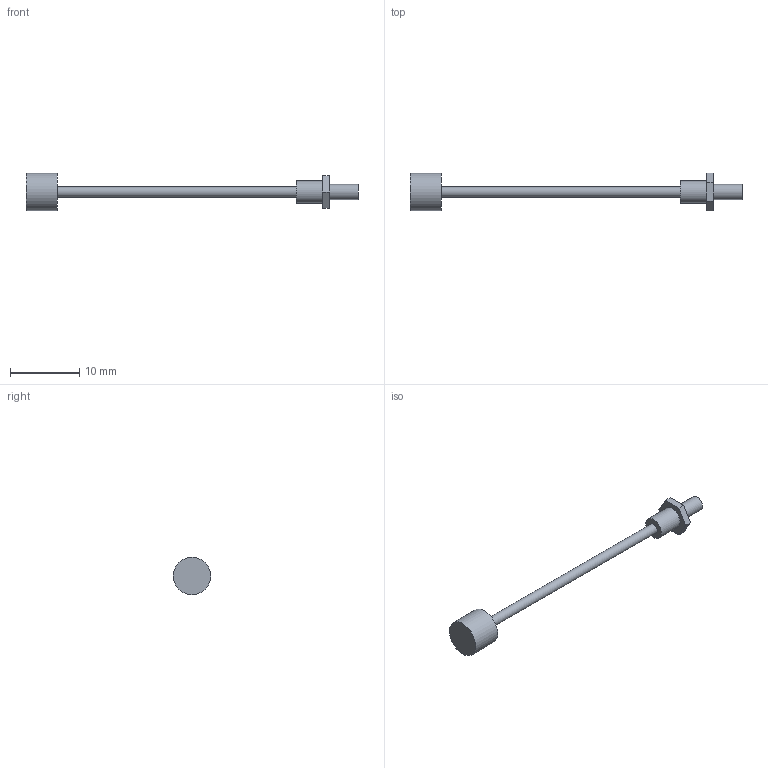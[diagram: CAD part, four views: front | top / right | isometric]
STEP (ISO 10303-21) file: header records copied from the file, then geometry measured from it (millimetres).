
FILE_DESCRIPTION(('Open CASCADE Model'),'2;1');
FILE_NAME('Open CASCADE Shape Model','2026-09-09T10:24:07',('Author'),( 'Open CASCADE'),'Open CASCADE STEP processor 7.8','Open CASCADE 7.8' ,'Unknown');
FILE_SCHEMA(('AUTOMOTIVE_DESIGN { 1 0 10303 214 1 1 1 1 }'));
Length unit declared in the file: millimetre
Products named in the file (1): Open CASCADE STEP translator 7.8 21
Bounding box: 48.08 x 5.5 x 5.4 mm (x, y, z)
Volume: 227.2 mm3; surface area: 406.3 mm2
Topology: 1 solids, 2 shells, 19 faces, 33 edges, 22 vertices
Faces by surface type: plane 14, cylinder 5
Full cylindrical faces by diameter (mm): 1 x1, 1.473 x1, 2.184 x1, 3.2 x1, 5.4 x1
Entity records: 897 total; most frequent: DIRECTION 148, CARTESIAN_POINT 147, LINE 79, VECTOR 79, ORIENTED_EDGE 66, PCURVE 66, DEFINITIONAL_REPRESENTATION 66, EDGE_CURVE 33
